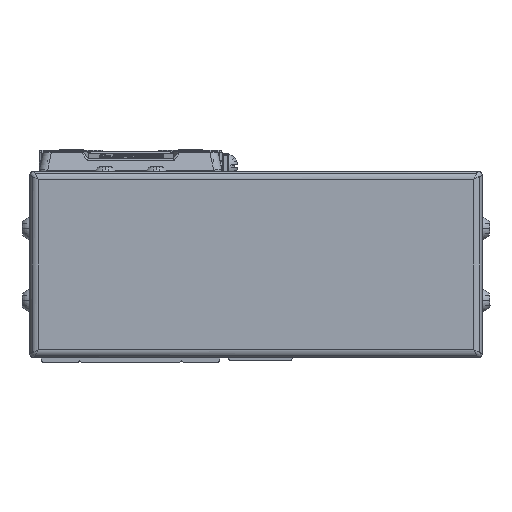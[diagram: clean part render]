
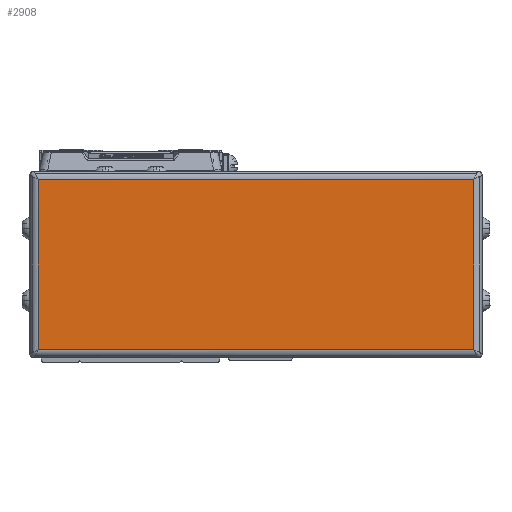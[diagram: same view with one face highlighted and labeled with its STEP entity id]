
A CAD part, left-side view. The second image highlights one B-rep face of the part: STEP entity #2908.
In plain terms, the highlighted planar face has unit normal (-1, 0, 0).
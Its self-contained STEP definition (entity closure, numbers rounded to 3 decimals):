
#2908=ADVANCED_FACE('',(#7838),#7839,.T.);
#7838=FACE_OUTER_BOUND('',#15520,.T.);
#7839=PLANE('',#15521);
#15520=EDGE_LOOP('',(#26225,#26226,#26227,#26228));
#15521=AXIS2_PLACEMENT_3D('',#26229,#26230,#26231);
#26225=ORIENTED_EDGE('',*,*,#47010,.F.);
#26226=ORIENTED_EDGE('',*,*,#47011,.F.);
#26227=ORIENTED_EDGE('',*,*,#47012,.F.);
#26228=ORIENTED_EDGE('',*,*,#47013,.F.);
#26229=CARTESIAN_POINT('',(-48.,-29.5,-4.));
#26230=DIRECTION('',(-1.0,0.,0.));
#26231=DIRECTION('',(0.,0.,1.0));
#47010=EDGE_CURVE('',#55652,#55653,#55654,.T.);
#47011=EDGE_CURVE('',#55655,#55652,#55656,.T.);
#47012=EDGE_CURVE('',#55657,#55655,#55658,.T.);
#47013=EDGE_CURVE('',#55653,#55657,#55659,.T.);
#55652=VERTEX_POINT('',#68091);
#55653=VERTEX_POINT('',#68092);
#55654=LINE('',#68093,#68094);
#55655=VERTEX_POINT('',#68095);
#55656=LINE('',#68096,#68097);
#55657=VERTEX_POINT('',#68098);
#55658=LINE('',#68099,#68100);
#55659=LINE('',#68101,#68102);
#68091=CARTESIAN_POINT('',(-48.,21.7,16.));
#68092=CARTESIAN_POINT('',(-48.,-80.7,16.));
#68093=CARTESIAN_POINT('',(-48.,-29.5,16.));
#68094=VECTOR('',#84958,10.0);
#68095=CARTESIAN_POINT('',(-48.,21.7,-24.));
#68096=CARTESIAN_POINT('',(-48.,21.7,-4.));
#68097=VECTOR('',#84959,10.0);
#68098=CARTESIAN_POINT('',(-48.,-80.7,-24.));
#68099=CARTESIAN_POINT('',(-48.,-29.5,-24.));
#68100=VECTOR('',#84960,10.0);
#68101=CARTESIAN_POINT('',(-48.,-80.7,-4.));
#68102=VECTOR('',#84961,10.0);
#84958=DIRECTION('',(0.,-1.0,0.));
#84959=DIRECTION('',(0.,0.,1.0));
#84960=DIRECTION('',(0.,1.0,0.));
#84961=DIRECTION('',(0.,0.,-1.0));
